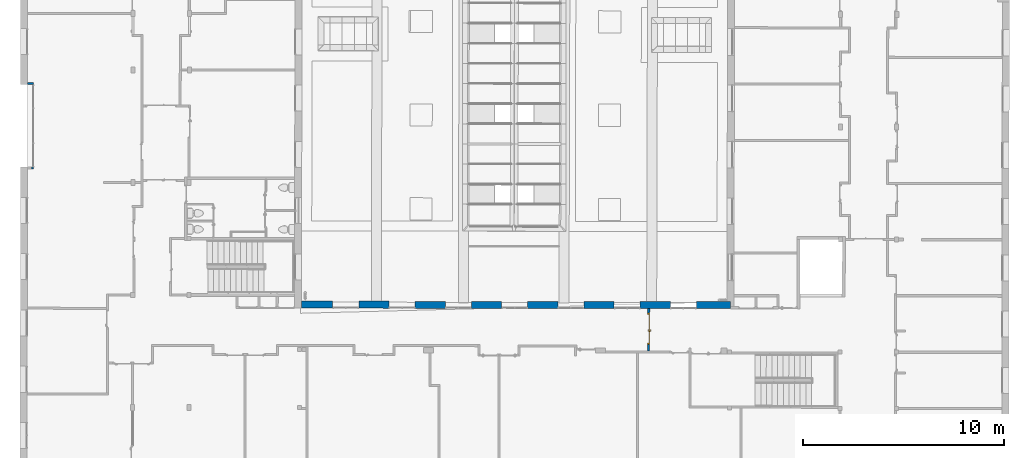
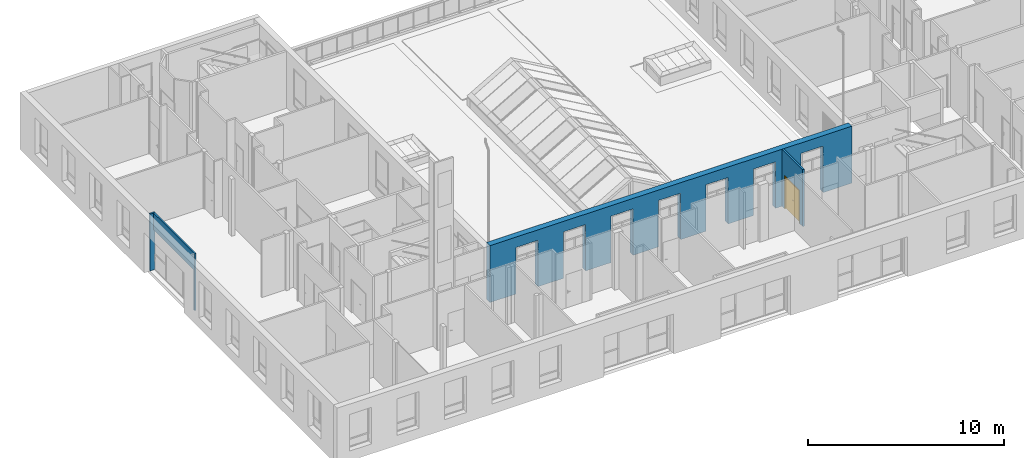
# One storey, part 59 of 101: 4 walls, 1 door, 9 openings.
"""IFC2X3 building model written with IfcOpenShell, lengths in metres."""

import ifcopenshell
import ifcopenshell.guid

model = None  # the IFC model being written
_history = None  # IfcOwnerHistory: only IFC2X3 demands one
_inside = {}  # id of a spatial element -> (the spatial element, [elements in it])
_under = {}  # id of a project, library or spatial element -> (it, [spatial elements below it])
_declared = {}  # id of a project -> (the project, [libraries it declares])
_typed = {}  # id of a type object -> (the type object, [elements of that type])
_made_of = {}  # id of a material, layer set ... -> (it, [elements and type objects made of it])


def new_model(schema):
    """Start an empty IFC model of exactly this schema.

    Asked for "IFC4X3", IfcOpenShell would pick the latest addendum, in which some entities
    have other attributes; the version numbers below select the first issue.
    IFC2X3 requires an IfcOwnerHistory on every rooted entity: one is made here for all.
    """
    global model, _history
    if schema == "IFC4X3":
        model = ifcopenshell.file(schema_version=(4, 3, 0, 0))
    else:
        model = ifcopenshell.file(schema=schema)
    _inside.clear()
    _under.clear()
    _declared.clear()
    _typed.clear()
    _made_of.clear()
    _history = None
    if model.schema == "IFC2X3":
        org = make("IfcOrganization", Name="unknown")
        user = make(
            "IfcPersonAndOrganization",
            ThePerson=make("IfcPerson", FamilyName="unknown"),
            TheOrganization=org,
        )
        app = make(
            "IfcApplication",
            ApplicationDeveloper=org,
            Version="unknown",
            ApplicationFullName="unknown",
            ApplicationIdentifier="unknown",
        )
        _history = make(
            "IfcOwnerHistory",
            OwningUser=user,
            OwningApplication=app,
            ChangeAction="ADDED",
            CreationDate=0,
        )
    return model


def make(cls, **values):
    """One entity of the class cls with the attributes given. An attribute that is None is left unset."""
    return model.create_entity(
        cls, **{name: value for name, value in values.items() if value is not None}
    )


def entity(cls, *values):
    """Any entity or typed value of the class cls, its attributes in the order of the schema. None: left unset."""
    e = model.create_entity(cls)
    for i, value in enumerate(values):
        if value is not None:
            e[i] = value
    return e


def rooted(cls, **values):
    """An entity with a GlobalId (a new one), such as an element, a storey or a relation."""
    return make(cls, GlobalId=ifcopenshell.guid.new(), OwnerHistory=_history, **values)


def si_unit(unit_type, name, prefix=None):
    """IfcSIUnit, for example si_unit("LENGTHUNIT", "METRE", prefix="MILLI")."""
    return make("IfcSIUnit", UnitType=unit_type, Prefix=prefix, Name=name)


def converted_unit(unit_type, name, factor, base, dimensions=None, offset=None):
    """IfcConversionBasedUnit, such as the inch: factor (a typed value) times the base unit."""
    return make(
        "IfcConversionBasedUnit"
        if offset is None
        else "IfcConversionBasedUnitWithOffset",
        ConversionOffset=offset,
        Dimensions=None
        if dimensions is None
        else entity("IfcDimensionalExponents", *dimensions),
        UnitType=unit_type,
        Name=name,
        ConversionFactor=make(
            "IfcMeasureWithUnit", ValueComponent=factor, UnitComponent=base
        ),
    )


def derived_unit(unit_type, elements):
    """IfcDerivedUnit: a product of units, each with its exponent."""
    return make(
        "IfcDerivedUnit",
        Elements=[
            make("IfcDerivedUnitElement", Unit=unit, Exponent=power)
            for unit, power in elements
        ],
        UnitType=unit_type,
    )


def assignment(units):
    """IfcUnitAssignment: the units of a project."""
    return None if units is None else make("IfcUnitAssignment", Units=units)


def point(xyz):
    """IfcCartesianPoint."""
    return None if xyz is None else make("IfcCartesianPoint", Coordinates=xyz)


def direction(xyz):
    """IfcDirection."""
    return None if xyz is None else make("IfcDirection", DirectionRatios=xyz)


def frame(location, z_axis=None, x_axis=None):
    """IfcAxis2Placement3D, a coordinate frame: its origin and axes. An axis left out is left unset."""
    return make(
        "IfcAxis2Placement3D",
        Location=point(location),
        Axis=direction(z_axis),
        RefDirection=direction(x_axis),
    )


def frame_2d(location, x_axis=None):
    """IfcAxis2Placement2D, a coordinate frame in the plane: its origin and x axis."""
    return make(
        "IfcAxis2Placement2D", Location=point(location), RefDirection=direction(x_axis)
    )


def origin():
    """The frame at (0, 0, 0) with its axes left unset."""
    return frame((0.0, 0.0, 0.0))


def place(relative_to, where):
    """IfcLocalPlacement: puts the frame where relative to a parent placement (None: the world)."""
    return make(
        "IfcLocalPlacement", PlacementRelTo=relative_to, RelativePlacement=where
    )


def context(
    kind, dimensions, precision=None, world=None, true_north=None, identifier=None
):
    """IfcGeometricRepresentationContext, for example the 3D "Model" context."""
    return make(
        "IfcGeometricRepresentationContext",
        ContextIdentifier=identifier,
        ContextType=kind,
        CoordinateSpaceDimension=dimensions,
        Precision=precision,
        WorldCoordinateSystem=world,
        TrueNorth=true_north,
    )


def subcontext(parent, identifier, kind, view, scale=None):
    """IfcGeometricRepresentationSubContext, for example "Body" below "Model"."""
    return make(
        "IfcGeometricRepresentationSubContext",
        ContextIdentifier=identifier,
        ContextType=kind,
        ParentContext=parent,
        TargetScale=scale,
        TargetView=view,
    )


def project(units=None, contexts=None):
    """IfcProject with its units and contexts."""
    return rooted(
        "IfcProject",
        Name="project",
        RepresentationContexts=contexts,
        UnitsInContext=assignment(units),
    )


def spatial(cls, under=None, at=None, **own):
    """A site, building, storey or space (cls), placed at a placement, below another one or the project."""
    s = rooted(cls, ObjectPlacement=at, **own)
    if under is not None:
        _under.setdefault(under.id(), (under, []))[1].append(s)
    return s


def profile(cls, at=None, kind="AREA", **sizes):
    """A parametric profile (cls). Its sizes go by their IFC names, for example OverallWidth=200.0."""
    return make(cls, ProfileType=kind, Position=at, **sizes)


def rectangle(**sizes):
    """IfcRectangleProfileDef."""
    return profile("IfcRectangleProfileDef", **sizes)


def extrude(swept, where, along, depth):
    """IfcExtrudedAreaSolid: the profile swept, set in the frame where, extruded along a direction by depth."""
    return make(
        "IfcExtrudedAreaSolid",
        SweptArea=swept,
        Position=where,
        ExtrudedDirection=direction(along),
        Depth=depth,
    )


def faces_of(points, faces, orient=None, outer=None):
    """IfcFace entities. A face is a list of loops; a loop is a list of indices into points, from 0.

    orient and outer hold one flag for each loop. By default every Orientation is true, the
    first loop of a face is its IfcFaceOuterBound and the others are IfcFaceBound.
    """
    made = []
    for i, loops in enumerate(faces):
        bounds = []
        for j, loop in enumerate(loops):
            is_outer = j == 0 if outer is None else outer[i][j]
            bounds.append(
                make(
                    "IfcFaceOuterBound" if is_outer else "IfcFaceBound",
                    Bound=make("IfcPolyLoop", Polygon=[points[k] for k in loop]),
                    Orientation=True if orient is None else orient[i][j],
                )
            )
        made.append(make("IfcFace", Bounds=bounds))
    return made


def faceted_brep(points, faces, orient=None, outer=None, voids=None):
    """IfcFacetedBrep: a solid bounded by flat faces; with voids (closed shells), ...WithVoids."""
    shared = [point(p) for p in points]
    hull = make("IfcClosedShell", CfsFaces=faces_of(shared, faces, orient, outer))
    if voids is None:
        return make("IfcFacetedBrep", Outer=hull)
    return make(
        "IfcFacetedBrepWithVoids",
        Outer=hull,
        Voids=[
            make(cls, CfsFaces=faces_of(shared, fs, o, b)) for cls, fs, o, b in voids
        ],
    )


def shape(context_of_items, identifier, shape_type, items):
    """IfcShapeRepresentation: the items that make up one representation, for example the "Body"."""
    return make(
        "IfcShapeRepresentation",
        ContextOfItems=context_of_items,
        RepresentationIdentifier=identifier,
        RepresentationType=shape_type,
        Items=items,
    )


def source(mapping_origin, context_of_items, identifier, shape_type, items):
    """IfcRepresentationMap: a shape defined once, which mapped items show again and again."""
    return make(
        "IfcRepresentationMap",
        MappingOrigin=mapping_origin,
        MappedRepresentation=shape(context_of_items, identifier, shape_type, items),
    )


def transform(
    local_origin,
    x_axis=None,
    y_axis=None,
    z_axis=None,
    scale=None,
    scale2=None,
    scale3=None,
    uniform=True,
):
    """IfcCartesianTransformationOperator3D, or its non-uniform kind. x_axis, y_axis, z_axis: its Axis1, 2, 3."""
    if uniform:
        return make(
            "IfcCartesianTransformationOperator3D",
            Axis1=direction(x_axis),
            Axis2=direction(y_axis),
            LocalOrigin=point(local_origin),
            Scale=scale,
            Axis3=direction(z_axis),
        )
    return make(
        "IfcCartesianTransformationOperator3DnonUniform",
        Axis1=direction(x_axis),
        Axis2=direction(y_axis),
        LocalOrigin=point(local_origin),
        Scale=scale,
        Axis3=direction(z_axis),
        Scale2=scale2,
        Scale3=scale3,
    )


def mapped(mapping_source, mapping_target):
    """IfcMappedItem: shows the shape of a source again, moved by a transform."""
    return make(
        "IfcMappedItem", MappingSource=mapping_source, MappingTarget=mapping_target
    )


def material(Name=None, Category=None):
    """IfcMaterial."""
    return make("IfcMaterial", Name=Name, Category=Category)


def material_list(materials):
    """IfcMaterialList."""
    return make("IfcMaterialList", Materials=materials)


def layer(
    of_material, thickness, ventilated=None, Name=None, Category=None, Priority=None
):
    """IfcMaterialLayer: one layer of a wall or slab, of a material (None: an air gap)."""
    return make(
        "IfcMaterialLayer",
        Material=of_material,
        LayerThickness=thickness,
        IsVentilated=ventilated,
        Name=Name,
        Category=Category,
        Priority=Priority,
    )


def layer_set(layers, Name=None):
    """IfcMaterialLayerSet."""
    return make("IfcMaterialLayerSet", MaterialLayers=layers, LayerSetName=Name)


def layer_usage(for_layer_set, set_direction, sense, offset, extent=None):
    """IfcMaterialLayerSetUsage: how a layer set lies in its element."""
    return make(
        "IfcMaterialLayerSetUsage",
        ForLayerSet=for_layer_set,
        LayerSetDirection=set_direction,
        DirectionSense=sense,
        OffsetFromReferenceLine=offset,
        ReferenceExtent=extent,
    )


def made_of(thing, what):
    """Note that an element or type object is made of a material, layer set ...; save() writes the relation."""
    if what is not None:
        _made_of.setdefault(what.id(), (what, []))[1].append(thing)
    return thing


def type_object(cls, material=None, **own):
    """A type object (cls), such as IfcWallType, which elements share."""
    return made_of(rooted(cls, **own), material)


def type_shapes(of_type, sources):
    """Give a type object the sources (RepresentationMaps) that its elements show as mapped items."""
    of_type.RepresentationMaps = sources


def element(
    cls,
    number,
    at=None,
    inside=None,
    cuts=None,
    type_object=None,
    material=None,
    context=None,
    identifier="Body",
    shape_type=None,
    held_by="IfcProductDefinitionShape",
    body=None,
    shapes=None,
    **own,
):
    """One element of the class cls, such as IfcWall. Its Tag is "e" and its number.

    at: its placement. inside: the storey or other place that contains it. cuts: it is an
    opening in that element (IfcRelVoidsElement). A single representation is given by context,
    identifier, shape_type and body (its items); several are given by shapes. held_by: the class
    of the entity that holds the representations. save() writes the other relations.
    """
    e = rooted(cls, Tag="e%d" % number, ObjectPlacement=at, **own)
    if body is not None:
        shapes = [shape(context, identifier, shape_type, body)]
    if shapes is not None:
        e.Representation = make(held_by, Representations=shapes)
    if inside is not None:
        _inside.setdefault(inside.id(), (inside, []))[1].append(e)
    if cuts is not None:
        rooted(
            "IfcRelVoidsElement", RelatingBuildingElement=cuts, RelatedOpeningElement=e
        )
    if type_object is not None:
        _typed.setdefault(type_object.id(), (type_object, []))[1].append(e)
    return made_of(e, material)


def fill(opening, filler):
    """IfcRelFillsElement: the door or window that sits in an opening."""
    return rooted(
        "IfcRelFillsElement",
        RelatingOpeningElement=opening,
        RelatedBuildingElement=filler,
    )


def aggregate(whole, parts):
    """IfcRelAggregates: a whole, such as a stair, and the parts it consists of."""
    return rooted("IfcRelAggregates", RelatingObject=whole, RelatedObjects=parts)


def save(model, path):
    """Write the relations noted so far, then the file.

    IfcRelAggregates (storeys below a building ...), IfcRelContainedInSpatialStructure (elements
    in a storey), IfcRelDefinesByType, IfcRelAssociatesMaterial and IfcRelDeclares: one each for
    every whole, place, type object, material and project.
    """
    for whole, parts in _under.values():
        aggregate(whole, parts)
    for where, things in _inside.values():
        rooted(
            "IfcRelContainedInSpatialStructure",
            RelatedElements=things,
            RelatingStructure=where,
        )
    for kind, things in _typed.values():
        rooted("IfcRelDefinesByType", RelatedObjects=things, RelatingType=kind)
    for what, things in _made_of.values():
        rooted("IfcRelAssociatesMaterial", RelatedObjects=things, RelatingMaterial=what)
    for by, libraries in _declared.values():
        rooted("IfcRelDeclares", RelatingContext=by, RelatedDefinitions=libraries)
    model.write(path)


model = new_model("IFC2X3")

# Units and contexts
model_context = context("Model", 3, precision=1e-05, world=origin(), true_north=direction((6.123233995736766e-17, 1.0)))
body_context = subcontext(model_context, "Body", "Model", "MODEL_VIEW")
ifc_project = project(units=[si_unit("LENGTHUNIT", "METRE"), si_unit("AREAUNIT", "SQUARE_METRE"), converted_unit("PLANEANGLEUNIT", "DEGREE", entity("IfcPlaneAngleMeasure", 0.017453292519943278), si_unit("PLANEANGLEUNIT", "RADIAN"), dimensions=[0, 0, 0, 0, 0, 0, 0]), derived_unit("THERMALTRANSMITTANCEUNIT", [(si_unit("MASSUNIT", "GRAM", prefix="KILO"), 1), (si_unit("THERMODYNAMICTEMPERATUREUNIT", "KELVIN"), -1), (si_unit("TIMEUNIT", "SECOND"), -3)])], contexts=[model_context])

# Site, building, storey
site_placement = place(None, frame((1253.6752467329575, 2072.143113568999, 91.49999999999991), z_axis=(0.0, 0.0, 1.0), x_axis=(0.7237211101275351, 0.6900925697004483, 0.0)))
site = spatial("IfcSite", under=ifc_project, at=site_placement, Name="Surface", CompositionType="ELEMENT")
building_placement = place(site_placement, origin())
building = spatial("IfcBuilding", under=site, at=building_placement, CompositionType="ELEMENT")
storey_placement = place(building_placement, origin())
storey = spatial("IfcBuildingStorey", under=building, at=storey_placement, Name="0- Rdc", CompositionType="ELEMENT", Elevation=-5.764692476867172e-13)

# Wall, openings
ifc_material_1 = material(Name="OMD_Béton blanc")
ifc_layer_1 = layer(ifc_material_1, 0.35)
ifc_layer_set_1 = layer_set([ifc_layer_1], Name="Mur de base:MUR 35")
ifc_layer_usage_1 = layer_usage(ifc_layer_set_1, "AXIS2", "NEGATIVE", 0.175)
wall_type_1 = type_object("IfcWallType", Name="Mur de base:MUR 35", PredefinedType="STANDARD", material=ifc_layer_set_1)
wall_1_placement = place(storey_placement, frame((159.95556313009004, 0.9720359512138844, 0.0), z_axis=(0.0, 0.0, 1.0), x_axis=(0.7228702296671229, -0.6909838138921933, 0.0)))
wall_1 = element("IfcWallStandardCase", 1, at=wall_1_placement, inside=storey, type_object=wall_type_1, material=ifc_layer_usage_1, Name="Mur de base:MUR 35", ObjectType="Mur de base:MUR 35", context=body_context, shape_type="SweptSolid", body=[
    extrude(rectangle(XDim=21.340917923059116, YDim=0.3499999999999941, at=frame_2d((10.670458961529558, -2.4980018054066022e-15), x_axis=(-1.0, 0.0))), origin(), (0.0, 0.0, 1.0), 3.5499999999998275),
])
opening_1_placement = place(wall_1_placement, frame((2.16735839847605, -0.9765872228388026, 0.0)))
element("IfcOpeningElement", 2, at=opening_1_placement, cuts=wall_1, Name="Mur de base:MUR 35", ObjectType="Opening", context=body_context, shape_type="SweptSolid", body=[
    extrude(rectangle(XDim=2.8999999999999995, YDim=1.2996959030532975, at=frame_2d((1.8540724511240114e-14, 0.0), x_axis=(0.0, 1.0))), frame((0.029296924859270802, 0.6491872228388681, 1.4499999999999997), z_axis=(0.0, 1.0, 0.0), x_axis=(-1.0, 0.0, 0.0)), (0.0, 0.0, 1.0), 0.6548000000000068),
])
opening_2_placement = place(wall_1_placement, frame((4.970855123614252, -0.9765872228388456, 0.0)))
element("IfcOpeningElement", 3, at=opening_2_placement, cuts=wall_1, Name="Mur de base:MUR 35", ObjectType="Opening", context=body_context, shape_type="SweptSolid", body=[
    extrude(rectangle(XDim=2.8999999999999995, YDim=1.2996959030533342, at=frame_2d((-5.551115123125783e-17, 0.0), x_axis=(0.0, 1.0))), frame((0.02929692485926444, 0.6491872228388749, 1.4499999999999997), z_axis=(0.0, 1.0, 0.0), x_axis=(-1.0, 0.0, 0.0)), (0.0, 0.0, 1.0), 0.6548000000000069),
])
opening_3_placement = place(wall_1_placement, frame((7.770855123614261, -0.9765872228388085, 0.0)))
element("IfcOpeningElement", 4, at=opening_3_placement, cuts=wall_1, Name="Mur de base:MUR 35", ObjectType="Opening", context=body_context, shape_type="SweptSolid", body=[
    extrude(rectangle(XDim=2.8999999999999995, YDim=1.2996959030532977, at=frame_2d((-1.865174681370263e-14, 0.0), x_axis=(0.0, 1.0))), frame((0.02929692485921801, 0.6491872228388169, 1.4499999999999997), z_axis=(0.0, 1.0, 0.0), x_axis=(-1.0, 0.0, 0.0)), (0.0, 0.0, 1.0), 0.6547999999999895),
])
opening_4_placement = place(wall_1_placement, frame((10.570855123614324, -0.9765872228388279, 0.0)))
element("IfcOpeningElement", 5, at=opening_4_placement, cuts=wall_1, Name="Mur de base:MUR 35", ObjectType="Opening", context=body_context, shape_type="SweptSolid", body=[
    extrude(rectangle(XDim=2.8999999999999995, YDim=1.2996959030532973, at=frame_2d((1.8207657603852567e-14, 0.0), x_axis=(0.0, 1.0))), frame((0.029296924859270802, 0.6491872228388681, 1.4499999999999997), z_axis=(0.0, 1.0, 0.0), x_axis=(-1.0, 0.0, 0.0)), (0.0, 0.0, 1.0), 0.6548000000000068),
])
opening_5_placement = place(wall_1_placement, frame((13.370855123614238, -0.9765872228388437, 0.0)))
element("IfcOpeningElement", 6, at=opening_5_placement, cuts=wall_1, Name="Mur de base:MUR 35", ObjectType="Opening", context=body_context, shape_type="SweptSolid", body=[
    extrude(rectangle(XDim=2.8999999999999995, YDim=1.2996959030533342, at=frame_2d((3.885780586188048e-16, 0.0), x_axis=(0.0, 1.0))), frame((0.029296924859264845, 0.6491872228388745, 1.4499999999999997), z_axis=(0.0, 1.0, 0.0), x_axis=(-1.0, 0.0, 0.0)), (0.0, 0.0, 1.0), 0.6548000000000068),
])
opening_6_placement = place(wall_1_placement, frame((16.170855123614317, -0.9765872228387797, 0.0)))
element("IfcOpeningElement", 7, at=opening_6_placement, cuts=wall_1, Name="Mur de base:MUR 35", ObjectType="Opening", context=body_context, shape_type="SweptSolid", body=[
    extrude(rectangle(XDim=2.8999999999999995, YDim=1.2996959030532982, at=frame_2d((-1.9373391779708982e-14, 0.0), x_axis=(0.0, 1.0))), frame((0.029296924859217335, 0.6491872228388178, 1.4499999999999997), z_axis=(0.0, 1.0, 0.0), x_axis=(-1.0, 0.0, 0.0)), (0.0, 0.0, 1.0), 0.6548000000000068),
])
opening_7_placement = place(wall_1_placement, frame((18.970855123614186, -0.9765872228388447, 0.0)))
element("IfcOpeningElement", 8, at=opening_7_placement, cuts=wall_1, Name="Mur de base:MUR 35", ObjectType="Opening", context=body_context, shape_type="SweptSolid", body=[
    extrude(rectangle(XDim=2.8999999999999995, YDim=1.2996959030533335, at=frame_2d((0.0, 0.0), x_axis=(0.0, 1.0))), frame((0.029296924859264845, 0.6491872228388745, 1.4499999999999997), z_axis=(0.0, 1.0, 0.0), x_axis=(-1.0, 0.0, 0.0)), (0.0, 0.0, 1.0), 0.6548000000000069),
])

# Wall, opening, door
ifc_layer_2 = layer(ifc_material_1, 0.1)
ifc_layer_set_2 = layer_set([ifc_layer_2], Name="Mur de base:MUR 10")
ifc_layer_usage_2 = layer_usage(ifc_layer_set_2, "AXIS2", "NEGATIVE", 0.05)
wall_type_2 = type_object("IfcWallType", Name="Mur de base:MUR 10", PredefinedType="STANDARD", material=ifc_layer_set_2)
wall_2_placement = place(storey_placement, frame((172.32222418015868, -11.09121172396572, 0.0), z_axis=(0.0, 0.0, 1.0), x_axis=(-0.6909838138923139, -0.7228702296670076, 0.0)))
wall_2 = element("IfcWallStandardCase", 9, at=wall_2_placement, inside=storey, type_object=wall_type_2, material=ifc_layer_usage_2, Name="Mur de base:MUR 10", ObjectType="Mur de base:MUR 10", context=body_context, shape_type="SweptSolid", body=[
    extrude(rectangle(XDim=2.105000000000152, YDim=0.10000000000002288, at=frame_2d((1.052500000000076, 2.5326962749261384e-16), x_axis=(-1.0, 0.0))), origin(), (0.0, 0.0, 1.0), 3.5499999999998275),
])
opening_8_placement = place(wall_2_placement, frame((0.22499999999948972, -0.05000000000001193, 0.0)))
opening_8 = element("IfcOpeningElement", 10, at=opening_8_placement, cuts=wall_2, Name="OMD_Porte 2V tunnel:140x204:1", ObjectType="Opening", context=body_context, shape_type="SweptSolid", body=[
    extrude(rectangle(XDim=2.085, YDim=1.5499999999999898, at=frame_2d((1.0425, 0.7749999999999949), x_axis=(1.0, 0.0))), frame((0.0, 0.0, 0.0), z_axis=(0.0, 1.0, 0.0), x_axis=(0.0, 0.0, 1.0)), (0.0, 0.0, 1.0), 0.09999999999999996),
])
ifc_material_2 = material(Name="<Unnamed>")
ifc_material_3 = material(Name="Porte - Poignée")
ifc_material_4 = material(Name="OMD_Bois")
ifc_material_list = material_list([ifc_material_2, ifc_material_3, ifc_material_4])
door_style = type_object("IfcDoorStyle", Name="OMD_Porte 2V tunnel:140x204", ConstructionType="NOTDEFINED", OperationType="NOTDEFINED", ParameterTakesPrecedence=False, Sizeable=False, material=ifc_material_list)
shared_shape = source(origin(), body_context, "Body", "Brep", [
    faceted_brep([(0.1450000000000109, 0.030000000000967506, 0.0), (0.6750000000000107, 0.030000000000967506, 0.0), (0.6750000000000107, 0.0, 0.0), (0.1450000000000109, 0.0, 0.0), (0.1450000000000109, 0.030000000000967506, 2.04), (0.1450000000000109, 0.0, 2.04), (0.6750000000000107, 0.0, 2.04), (0.6750000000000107, 0.030000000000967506, 2.04)], [[[0, 1, 2, 3]], [[4, 0, 3, 5]], [[5, 3, 2, 6]], [[6, 2, 1, 7]], [[7, 1, 0, 4]], [[4, 5, 6, 7]]]),
    faceted_brep([(0.7279747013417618, 0.035000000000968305, 1.0077804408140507), (0.7239999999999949, 0.035000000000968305, 1.0069999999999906), (0.7239999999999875, 0.035000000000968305, 0.9929999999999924), (0.7279747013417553, 0.035000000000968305, 0.9922195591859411), (0.7320252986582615, 0.035000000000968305, 0.9922195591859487), (0.7360000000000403, 0.035000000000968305, 0.9930000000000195), (0.7360000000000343, 0.035000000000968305, 1.0069999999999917), (0.7320252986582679, 0.035000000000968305, 1.007780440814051), (0.7360000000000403, 0.057485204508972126, 0.9930000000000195), (0.7360000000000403, 0.057485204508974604, 1.0069999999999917), (0.7320252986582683, 0.05913157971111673, 1.007780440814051), (0.7458389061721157, 0.07294518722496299, 1.007780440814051), (0.7441610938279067, 0.07699578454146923, 1.0077804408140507), (0.7279747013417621, 0.06080939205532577, 1.0077804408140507), (0.8356847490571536, 0.06646731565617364, 1.0077804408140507), (0.8385489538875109, 0.06933152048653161, 1.0077804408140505), (0.8308846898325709, 0.07699578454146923, 1.0077804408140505), (0.8292068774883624, 0.07294518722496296, 1.0077804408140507), (0.7239999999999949, 0.06245576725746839, 1.0069999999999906), (0.7239999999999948, 0.06245576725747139, 0.9929999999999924), (0.7279747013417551, 0.060809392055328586, 0.9922195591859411), (0.7441610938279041, 0.07699578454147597, 0.9922195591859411), (0.7458389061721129, 0.07294518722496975, 0.9922195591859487), (0.7320252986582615, 0.05913157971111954, 0.9922195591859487), (0.8385489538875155, 0.06933152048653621, 0.9922195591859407), (0.8356847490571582, 0.06646731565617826, 0.9922195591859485), (0.8292068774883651, 0.07294518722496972, 0.9922195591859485), (0.8308846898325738, 0.07699578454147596, 0.9922195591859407), (0.74748528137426, 0.06897048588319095, 0.9930000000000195), (0.7474852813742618, 0.06897048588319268, 1.0069999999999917), (0.7425147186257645, 0.08097048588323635, 1.0069999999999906), (0.7425147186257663, 0.08097048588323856, 0.9929999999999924), (0.787522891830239, 0.06897048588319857, 0.9930000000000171), (0.8275605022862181, 0.06897048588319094, 0.9930000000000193), (0.8275605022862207, 0.06897048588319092, 1.0069999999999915), (0.787522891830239, 0.06897048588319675, 1.0069999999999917), (0.7875228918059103, 0.07512492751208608, 1.0078781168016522), (0.8325310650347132, 0.0809704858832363, 1.0069999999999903), (0.7926005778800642, 0.08097048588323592, 1.0069999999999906), (0.8325310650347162, 0.08097048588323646, 0.9929999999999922), (0.7824452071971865, 0.08097048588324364, 0.9929999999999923), (0.7875228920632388, 0.07512492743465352, 0.9921218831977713), (0.8328742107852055, 0.06365677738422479, 0.9930000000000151), (0.8413594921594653, 0.0721420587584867, 0.99299999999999), (0.8413594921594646, 0.07214205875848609, 1.0069999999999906), (0.8328742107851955, 0.06365677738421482, 1.0069999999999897)], [[[0, 1, 2, 3, 4, 5, 6, 7]], [[6, 5, 8, 9]], [[9, 10, 7, 6]], [[10, 11, 12, 13, 0, 7]], [[14, 15, 16, 17]], [[13, 18, 1, 0]], [[2, 1, 18, 19]], [[19, 20, 3, 2]], [[20, 21, 22, 23, 4, 3]], [[24, 25, 26, 27]], [[23, 8, 5, 4]], [[9, 8, 28, 29]], [[29, 11, 10, 9]], [[12, 30, 18, 13]], [[19, 18, 30, 31]], [[31, 21, 20, 19]], [[22, 28, 8, 23]], [[29, 28, 32, 33, 34, 35]], [[11, 35, 36]], [[16, 37, 38]], [[30, 12, 38]], [[38, 12, 36]], [[36, 35, 17]], [[17, 16, 36]], [[35, 11, 29]], [[34, 17, 35]], [[11, 36, 12]], [[38, 36, 16]], [[31, 30, 38, 37, 39, 40]], [[40, 41, 21]], [[41, 40, 27]], [[21, 31, 40]], [[39, 27, 40]], [[41, 32, 22]], [[22, 21, 41]], [[26, 32, 41]], [[28, 22, 32]], [[32, 26, 33]], [[26, 41, 27]], [[42, 25, 24, 43, 44, 15, 14, 45]], [[34, 33, 42, 45]], [[45, 14, 17, 34]], [[15, 44, 37, 16]], [[39, 37, 44, 43]], [[43, 24, 27, 39]], [[25, 42, 33, 26]]]),
    faceted_brep([(0.7279747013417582, -0.004999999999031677, 1.0077804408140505), (0.7320252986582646, -0.004999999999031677, 1.007780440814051), (0.7360000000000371, -0.004999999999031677, 1.006999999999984), (0.7360000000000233, -0.004999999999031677, 0.9930000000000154), (0.7320252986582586, -0.004999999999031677, 0.9922195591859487), (0.7279747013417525, -0.004999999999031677, 0.992219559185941), (0.7239999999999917, -0.004999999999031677, 0.992999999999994), (0.7239999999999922, -0.004999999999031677, 1.0069999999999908), (0.723999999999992, -0.03265095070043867, 1.0069999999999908), (0.727974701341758, -0.031004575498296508, 1.0077804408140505), (0.7440235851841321, -0.047053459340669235, 1.0077804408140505), (0.745701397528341, -0.043002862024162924, 1.007780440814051), (0.7320252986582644, -0.029326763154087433, 1.007780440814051), (0.8385218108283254, -0.03938919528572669, 1.0077804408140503), (0.8356576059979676, -0.036524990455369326, 1.0077804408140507), (0.8291797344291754, -0.043002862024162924, 1.0077804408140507), (0.8308575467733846, -0.047053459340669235, 1.0077804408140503), (0.7360000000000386, -0.027680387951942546, 1.0069999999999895), (0.7360000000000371, -0.027680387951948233, 0.9930000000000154), (0.7320252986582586, -0.029326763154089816, 0.9922195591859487), (0.7457013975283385, -0.04300286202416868, 0.9922195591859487), (0.7440235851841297, -0.04705345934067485, 0.992219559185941), (0.7279747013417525, -0.031004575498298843, 0.992219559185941), (0.8356576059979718, -0.03652499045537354, 0.9922195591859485), (0.8385218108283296, -0.03938919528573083, 0.9922195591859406), (0.8308575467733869, -0.04705345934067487, 0.9922195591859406), (0.8291797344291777, -0.04300286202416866, 0.9922195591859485), (0.7239999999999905, -0.03265095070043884, 0.9929999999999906), (0.7423772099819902, -0.051028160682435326, 1.0069999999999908), (0.7473477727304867, -0.03902816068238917, 1.0069999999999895), (0.7473477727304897, -0.03902816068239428, 0.9930000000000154), (0.7423772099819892, -0.05102816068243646, 0.9929999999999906), (0.7823076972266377, -0.05102816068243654, 1.0069999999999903), (0.7874405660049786, -0.045182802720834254, 1.0078781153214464), (0.8325039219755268, -0.051028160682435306, 1.0069999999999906), (0.7874405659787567, -0.039028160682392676, 1.0069999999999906), (0.8275333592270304, -0.039028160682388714, 1.0069999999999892), (0.827533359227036, -0.03902816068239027, 0.9930000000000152), (0.7874405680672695, -0.03902816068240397, 0.9930000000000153), (0.7874405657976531, -0.04518280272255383, 0.9921218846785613), (0.832503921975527, -0.05102816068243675, 0.9929999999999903), (0.7925734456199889, -0.051028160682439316, 0.9929999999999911), (0.8328470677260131, -0.03371445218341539, 1.0069999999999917), (0.8413323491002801, -0.042199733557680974, 1.0069999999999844), (0.841332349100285, -0.04219973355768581, 0.9929999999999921), (0.8328470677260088, -0.03371445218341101, 0.9930000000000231)], [[[0, 1, 2, 3, 4, 5, 6, 7]], [[8, 9, 0, 7]], [[9, 10, 11, 12, 1, 0]], [[13, 14, 15, 16]], [[12, 17, 2, 1]], [[3, 2, 17, 18]], [[18, 19, 4, 3]], [[19, 20, 21, 22, 5, 4]], [[23, 24, 25, 26]], [[22, 27, 6, 5]], [[7, 6, 27, 8]], [[28, 10, 9, 8]], [[11, 29, 17, 12]], [[18, 17, 29, 30]], [[30, 20, 19, 18]], [[21, 31, 27, 22]], [[8, 27, 31, 28]], [[32, 33, 10]], [[33, 32, 16]], [[10, 28, 32]], [[34, 16, 32]], [[33, 35, 11]], [[11, 10, 33]], [[15, 35, 33]], [[29, 11, 35]], [[35, 15, 36]], [[15, 33, 16]], [[30, 29, 35, 36, 37, 38]], [[20, 38, 39]], [[25, 40, 41]], [[31, 21, 41]], [[41, 21, 39]], [[39, 38, 26]], [[26, 25, 39]], [[38, 20, 30]], [[37, 26, 38]], [[20, 39, 21]], [[41, 39, 25]], [[28, 31, 41, 40, 34, 32]], [[42, 14, 13, 43, 44, 24, 23, 45]], [[43, 13, 16, 34]], [[14, 42, 36, 15]], [[37, 36, 42, 45]], [[45, 23, 26, 37]], [[24, 44, 40, 25]], [[34, 40, 44, 43]]]),
    faceted_brep([(0.7403527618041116, 0.030000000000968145, 0.8660039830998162), (0.7500000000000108, 0.030000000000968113, 0.8700000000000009), (0.7500000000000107, 0.030000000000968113, 1.0800000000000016), (0.7403527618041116, 0.030000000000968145, 1.0839960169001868), (0.730000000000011, 0.03000000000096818, 1.0853589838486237), (0.7196472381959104, 0.03000000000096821, 1.0839960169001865), (0.7100000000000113, 0.030000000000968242, 1.0800000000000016), (0.7100000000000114, 0.030000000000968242, 0.8700000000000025), (0.7196472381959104, 0.03000000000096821, 0.866003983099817), (0.7300000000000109, 0.03000000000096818, 0.8646410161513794), (0.7403527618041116, 0.035000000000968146, 1.0839960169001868), (0.7500000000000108, 0.03500000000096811, 1.0800000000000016), (0.7500000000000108, 0.03500000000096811, 0.8700000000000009), (0.7403527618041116, 0.035000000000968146, 0.8660039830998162), (0.7300000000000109, 0.03500000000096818, 0.8646410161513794), (0.7196472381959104, 0.035000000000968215, 0.866003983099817), (0.7100000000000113, 0.03500000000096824, 0.8700000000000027), (0.7100000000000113, 0.03500000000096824, 1.0800000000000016), (0.7196472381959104, 0.035000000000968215, 1.0839960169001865), (0.730000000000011, 0.03500000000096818, 1.0853589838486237)], [[[0, 1, 2, 3, 4, 5, 6, 7, 8, 9]], [[10, 11, 12, 13, 14, 15, 16, 17, 18, 19]], [[11, 10, 3, 2]], [[3, 10, 19, 4]], [[19, 18, 5, 4]], [[18, 17, 6, 5]], [[7, 6, 17, 16]], [[16, 15, 8, 7]], [[8, 15, 14, 9]], [[14, 13, 0, 9]], [[13, 12, 1, 0]], [[2, 1, 12, 11]]]),
    faceted_brep([(0.7403527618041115, -0.004999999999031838, 0.8660039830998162), (0.7500000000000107, -0.004999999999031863, 0.8700000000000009), (0.7500000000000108, -0.004999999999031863, 1.0800000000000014), (0.7403527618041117, -0.004999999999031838, 1.0839960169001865), (0.7300000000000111, -0.004999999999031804, 1.0853589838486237), (0.7196472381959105, -0.00499999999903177, 1.0839960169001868), (0.7100000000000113, -0.0049999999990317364, 1.0800000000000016), (0.7100000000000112, -0.0049999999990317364, 0.8700000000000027), (0.71964723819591, -0.00499999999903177, 0.8660039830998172), (0.7300000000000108, -0.004999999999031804, 0.8646410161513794), (0.7403527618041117, 0.0, 1.0839960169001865), (0.7500000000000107, 0.0, 1.0800000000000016), (0.7500000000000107, 0.0, 0.8700000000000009), (0.7403527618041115, 0.0, 0.8660039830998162), (0.7300000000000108, 0.0, 0.8646410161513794), (0.71964723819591, 0.0, 0.8660039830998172), (0.7100000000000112, 0.0, 0.8700000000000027), (0.7100000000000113, 0.0, 1.0800000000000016), (0.7196472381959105, 0.0, 1.0839960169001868), (0.7300000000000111, 0.0, 1.0853589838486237)], [[[0, 1, 2, 3, 4, 5, 6, 7, 8, 9]], [[10, 11, 12, 13, 14, 15, 16, 17, 18, 19]], [[16, 15, 8, 7]], [[8, 15, 14, 9]], [[14, 13, 0, 9]], [[13, 12, 1, 0]], [[2, 1, 12, 11]], [[11, 10, 3, 2]], [[3, 10, 19, 4]], [[19, 18, 5, 4]], [[18, 17, 6, 5]], [[7, 6, 17, 16]]]),
    faceted_brep([(0.6750000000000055, 0.030000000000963, 0.0), (1.6050000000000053, 0.0300000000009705, 0.0), (1.6050000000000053, 0.0, 0.0), (0.675000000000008, 0.0, 0.0), (0.6750000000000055, 0.030000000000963, 2.04), (0.675000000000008, 0.0, 2.04), (1.6050000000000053, 0.0, 2.04), (1.6050000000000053, 0.0300000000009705, 2.04)], [[[0, 1, 2, 3]], [[4, 0, 3, 5]], [[5, 3, 2, 6]], [[6, 2, 1, 7]], [[7, 1, 0, 4]], [[4, 5, 6, 7]]]),
    faceted_brep([(0.10000000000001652, 0.0, 0.0), (0.10000000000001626, 0.10000000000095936, 0.0), (0.1600000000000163, 0.10000000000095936, 0.0), (0.16000000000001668, 0.030000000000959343, 0.0), (0.14500000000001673, 0.0300000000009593, 0.0), (0.14500000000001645, 0.0, 0.0), (0.14500000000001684, 0.0, 2.0399999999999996), (1.605000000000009, 0.0, 2.0399999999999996), (1.6050000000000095, 0.0, 0.0), (1.6500000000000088, 0.0, 0.0), (1.6500000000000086, 0.0, 2.0849999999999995), (0.10000000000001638, 0.0, 2.085), (0.1450000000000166, 0.0300000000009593, 2.0399999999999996), (0.16000000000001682, 0.030000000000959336, 2.0249999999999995), (1.5900000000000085, 0.03000000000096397, 2.0249999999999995), (1.5900000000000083, 0.03000000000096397, 0.0), (1.6050000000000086, 0.030000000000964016, 0.0), (1.6050000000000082, 0.030000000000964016, 2.039999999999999), (0.16000000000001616, 0.10000000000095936, 2.0249999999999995), (0.10000000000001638, 0.10000000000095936, 2.0849999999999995), (1.6500000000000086, 0.10000000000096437, 2.0849999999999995), (1.6500000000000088, 0.10000000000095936, 0.0), (1.5900000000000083, 0.10000000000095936, 0.0), (1.5900000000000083, 0.10000000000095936, 2.0249999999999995)], [[[0, 1, 2, 3, 4, 5]], [[5, 6, 7, 8, 9, 10, 11, 0]], [[4, 12, 6, 5]], [[3, 13, 14, 15, 16, 17, 12, 4]], [[2, 18, 13, 3]], [[1, 19, 20, 21, 22, 23, 18, 2]], [[0, 11, 19, 1]], [[10, 9, 21, 20]], [[9, 8, 16, 15, 22, 21]], [[17, 16, 8, 7]], [[23, 22, 15, 14]], [[12, 17, 7, 6]], [[18, 23, 14, 13]], [[11, 10, 20, 19]]]),
])
type_shapes(door_style, [shared_shape])
door_placement = place(opening_8_placement, frame((1.6500000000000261, 0.10000000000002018, 0.0), z_axis=(0.0, 0.0, 1.0), x_axis=(-1.0, 0.0, 0.0)))
door = element("IfcDoor", 11, at=door_placement, inside=storey, type_object=door_style, material=ifc_material_list, Name="OMD_Porte 2V tunnel:140x204", ObjectType="OMD_Porte 2V tunnel:140x204", OverallHeight=2.085, OverallWidth=1.5499999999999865, context=body_context, shape_type="MappedRepresentation", body=[
    mapped(shared_shape, transform((0.0, 0.0, 0.0), scale=1.0)),
])
fill(opening_8, door)

# Wall, opening
ifc_layer_usage_3 = layer_usage(ifc_layer_set_2, "AXIS2", "NEGATIVE", 0.05)
wall_3_placement = place(storey_placement, frame((157.8253289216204, 18.121666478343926, 0.0), z_axis=(0.0, 0.0, 1.0), x_axis=(-0.6909838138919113, -0.7228702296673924, 0.0)))
wall_3 = element("IfcWallStandardCase", 12, at=wall_3_placement, inside=storey, type_object=wall_type_2, material=ifc_layer_usage_3, Name="Mur de base:MUR 10", ObjectType="Mur de base:MUR 10", context=body_context, shape_type="SweptSolid", body=[
    extrude(rectangle(XDim=4.200000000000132, YDim=0.0999999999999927, at=frame_2d((2.100000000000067, 3.747002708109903e-15), x_axis=(-1.0, 0.0))), origin(), (0.0, 0.0, 1.0), 3.5499999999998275),
])
opening_9_placement = place(wall_3_placement, frame((4.302194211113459, -0.00912474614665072, 0.0)))
element("IfcOpeningElement", 13, at=opening_9_placement, cuts=wall_3, Name="Mur de base:MUR 10", ObjectType="Opening", context=body_context, shape_type="SweptSolid", body=[
    extrude(rectangle(XDim=2.499999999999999, YDim=4.100000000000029, at=frame_2d((-1.1102230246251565e-16, -8.881784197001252e-16), x_axis=(1.0, 0.0))), frame((-2.2521942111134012, -0.19327525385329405, 1.25), z_axis=(0.0, 1.0, 0.0), x_axis=(0.0, 0.0, 1.0)), (0.0, 0.0, 1.0), 0.40479999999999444),
])

# Wall
ifc_layer_usage_4 = layer_usage(ifc_layer_set_2, "AXIS2", "NEGATIVE", 0.05)
wall_4_placement = place(storey_placement, frame((157.67629264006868, 18.333297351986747, 0.0), z_axis=(0.0, 0.0, 1.0), x_axis=(0.7228702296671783, -0.6909838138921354, 0.0)))
element("IfcWallStandardCase", 14, at=wall_4_placement, inside=storey, type_object=wall_type_2, material=ifc_layer_usage_4, Name="Mur de base:MUR 10", ObjectType="Mur de base:MUR 10", context=body_context, shape_type="SweptSolid", body=[
    extrude(rectangle(XDim=0.3039673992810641, YDim=0.10000000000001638, at=frame_2d((0.15198369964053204, -1.7486012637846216e-15), x_axis=(-1.0, 0.0))), origin(), (0.0, 0.0, 1.0), 3.5499999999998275),
])

save(model, "model.ifc")
